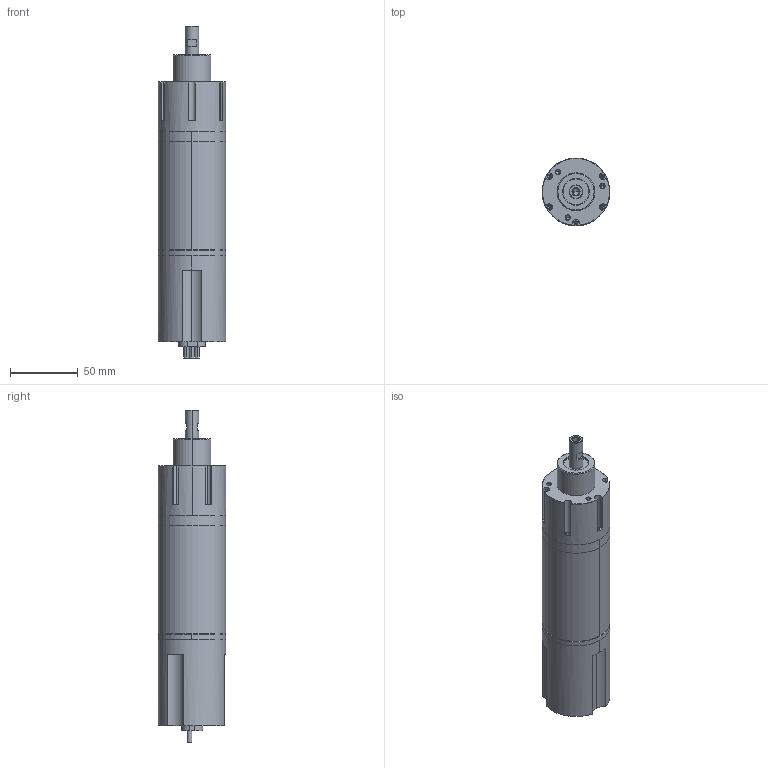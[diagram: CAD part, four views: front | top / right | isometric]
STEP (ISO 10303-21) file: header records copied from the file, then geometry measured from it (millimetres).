
FILE_DESCRIPTION (( 'STEP AP203' ), '1' );
FILE_NAME ('CBL50C-025-XX-1 OUTLINE.STEP', '2017-10-05T21:22:25', ( '' ), ( '' ), 'SwSTEP 2.0', 'SolidWorks 2016', '' );
FILE_SCHEMA (( 'CONFIG_CONTROL_DESIGN' ));
Length unit declared in the file: millimetre
Products named in the file (10): 18572-01_A; CABLE STRAIN RELIEF; CBL50C-025-XX-1 OUTLINE; 22991-01_b; 14717-56_A; 14717-28_A; 23633-53_A; 21565-25_A; SUDO BEARING; 14717-57_A
Assembly tree (9 placements, depth 2):
  CBL50C-025-XX-1 OUTLINE
    14717-28_A
    14717-56_A
    14717-57_A
    18572-01_A
    21565-25_A
    22991-01_b
    23633-53_A
    CABLE STRAIN RELIEF
    SUDO BEARING
Bounding box: 50 x 50 x 245.76 mm (x, y, z)
Volume: 218337.2 mm3; surface area: 94301 mm2
Topology: 12 solids, 12 shells, 457 faces, 1162 edges, 716 vertices
Faces by surface type: cylinder 205, plane 138, cone 111, bspline 3
Entity records: 15783 total; most frequent: CARTESIAN_POINT 3477, DIRECTION 2509, ORIENTED_EDGE 2240, EDGE_CURVE 1120, AXIS2_PLACEMENT_3D 968, VERTEX_POINT 716, VECTOR 573, LINE 573
